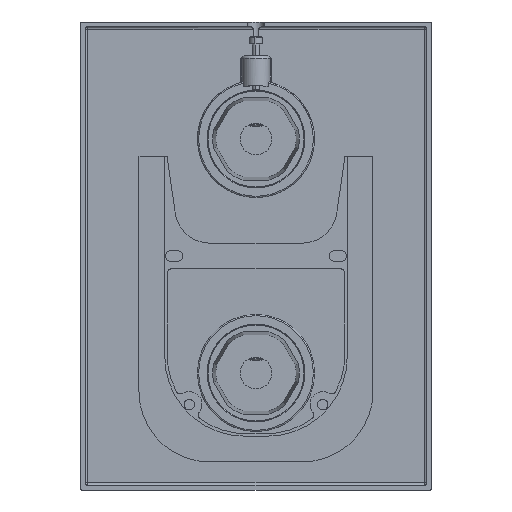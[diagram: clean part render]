
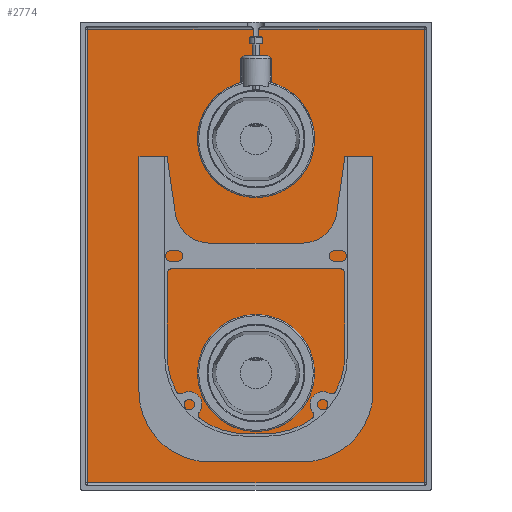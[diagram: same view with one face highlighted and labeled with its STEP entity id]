
A CAD part, front view. The second image highlights one B-rep face of the part: STEP entity #2774.
In plain terms, the highlighted planar face has unit normal (0, -1, 0) as drawn and (0, 0, -1) by its records, which use the part's own axes.
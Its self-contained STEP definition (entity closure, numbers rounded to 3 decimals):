
#81=CARTESIAN_POINT('',(0.,50.,7.5));
#82=DIRECTION('',(0.,0.,1.));
#83=DIRECTION('',(0.,-1.,0.));
#84=AXIS2_PLACEMENT_3D('',#81,#82,#83);
#86=CARTESIAN_POINT('',(0.,50.,7.5));
#87=DIRECTION('',(0.,0.,1.));
#88=DIRECTION('',(0.,1.,0.));
#89=AXIS2_PLACEMENT_3D('',#86,#87,#88);
#91=DIRECTION('',(-1.,0.,0.));
#92=VECTOR('',#91,3.92);
#93=CARTESIAN_POINT('',(-1.166,-85.478,7.5));
#94=LINE('',#93,#92);
#95=CARTESIAN_POINT('',(-5.086,-85.478,7.5));
#96=CARTESIAN_POINT('',(-5.212,-85.478,7.5));
#97=CARTESIAN_POINT('',(-5.463,-85.437,7.5));
#98=CARTESIAN_POINT('',(-5.848,-85.24,7.5));
#99=CARTESIAN_POINT('',(-6.194,-84.908,7.5));
#100=CARTESIAN_POINT('',(-6.394,-84.627,7.5));
#101=CARTESIAN_POINT('',(-6.5,-84.478,7.5));
#103=DIRECTION('',(0.,1.,0.));
#104=VECTOR('',#103,10.338);
#105=CARTESIAN_POINT('',(-6.5,-84.478,7.5));
#106=LINE('',#105,#104);
#107=DIRECTION('',(0.,-1.,0.));
#108=VECTOR('',#107,10.338);
#109=CARTESIAN_POINT('',(6.5,-74.14,7.5));
#110=LINE('',#109,#108);
#111=CARTESIAN_POINT('',(6.5,-84.478,7.5));
#112=CARTESIAN_POINT('',(6.394,-84.628,7.5));
#113=CARTESIAN_POINT('',(6.193,-84.909,7.5));
#114=CARTESIAN_POINT('',(5.847,-85.241,7.5));
#115=CARTESIAN_POINT('',(5.462,-85.438,7.5));
#116=CARTESIAN_POINT('',(5.212,-85.478,7.5));
#117=CARTESIAN_POINT('',(5.086,-85.478,7.5));
#119=DIRECTION('',(-1.,0.,0.));
#120=VECTOR('',#119,3.92);
#121=CARTESIAN_POINT('',(5.086,-85.478,7.5));
#122=LINE('',#121,#120);
#123=DIRECTION('',(0.,-1.,0.));
#124=VECTOR('',#123,11.522);
#125=CARTESIAN_POINT('',(1.166,-85.478,7.5));
#126=LINE('',#125,#124);
#127=DIRECTION('',(1.,0.,0.));
#128=VECTOR('',#127,70.834);
#129=CARTESIAN_POINT('',(1.166,-97.,7.5));
#130=LINE('',#129,#128);
#131=DIRECTION('',(0.,1.,0.));
#132=VECTOR('',#131,194.);
#133=CARTESIAN_POINT('',(72.,-97.,7.5));
#134=LINE('',#133,#132);
#135=DIRECTION('',(-1.,0.,0.));
#136=VECTOR('',#135,144.);
#137=CARTESIAN_POINT('',(72.,97.,7.5));
#138=LINE('',#137,#136);
#139=DIRECTION('',(0.,-1.,0.));
#140=VECTOR('',#139,194.);
#141=CARTESIAN_POINT('',(-72.,97.,7.5));
#142=LINE('',#141,#140);
#143=DIRECTION('',(1.,0.,0.));
#144=VECTOR('',#143,70.834);
#145=CARTESIAN_POINT('',(-72.,-97.,7.5));
#146=LINE('',#145,#144);
#147=DIRECTION('',(0.,-1.,0.));
#148=VECTOR('',#147,11.522);
#149=CARTESIAN_POINT('',(-1.166,-85.478,7.5));
#150=LINE('',#149,#148);
#937=CARTESIAN_POINT('',(6.5,-74.14,7.5));
#945=CARTESIAN_POINT('',(0.,-50.,7.5));
#946=DIRECTION('',(0.,0.,1.));
#947=DIRECTION('',(0.26,-0.966,0.));
#948=AXIS2_PLACEMENT_3D('',#945,#946,#947);
#956=CARTESIAN_POINT('',(-6.5,-74.14,7.5));
#2191=CARTESIAN_POINT('',(0.,25.,7.5));
#2192=CARTESIAN_POINT('',(0.,75.,7.5));
#2193=VERTEX_POINT('',#2191);
#2194=VERTEX_POINT('',#2192);
#2301=CARTESIAN_POINT('',(1.166,-85.478,7.5));
#2302=VERTEX_POINT('',#2301);
#2303=CARTESIAN_POINT('',(-1.166,-85.478,7.5));
#2304=VERTEX_POINT('',#2303);
#2328=CARTESIAN_POINT('',(1.166,-97.,7.5));
#2329=CARTESIAN_POINT('',(72.,-97.,7.5));
#2330=VERTEX_POINT('',#2328);
#2331=VERTEX_POINT('',#2329);
#2332=CARTESIAN_POINT('',(72.,97.,7.5));
#2333=VERTEX_POINT('',#2332);
#2338=CARTESIAN_POINT('',(-72.,97.,7.5));
#2339=VERTEX_POINT('',#2338);
#2348=CARTESIAN_POINT('',(-72.,-97.,7.5));
#2349=VERTEX_POINT('',#2348);
#2350=CARTESIAN_POINT('',(-1.166,-97.,7.5));
#2351=VERTEX_POINT('',#2350);
#2412=CARTESIAN_POINT('',(5.086,-85.478,7.5));
#2413=VERTEX_POINT('',#2412);
#2414=CARTESIAN_POINT('',(-5.086,-85.478,7.5));
#2415=VERTEX_POINT('',#2414);
#2416=VERTEX_POINT('',#956);
#2417=CARTESIAN_POINT('',(-6.5,-84.478,7.5));
#2418=VERTEX_POINT('',#2417);
#2419=VERTEX_POINT('',#937);
#2420=CARTESIAN_POINT('',(6.5,-84.478,7.5));
#2421=VERTEX_POINT('',#2420);
#2734=CARTESIAN_POINT('',(0.,0.,7.5));
#2735=DIRECTION('',(0.,0.,-1.));
#2736=DIRECTION('',(-1.,0.,0.));
#2737=AXIS2_PLACEMENT_3D('',#2734,#2735,#2736);
#2738=PLANE('',#2737);
#2740=ORIENTED_EDGE('',*,*,#2739,.T.);
#2742=ORIENTED_EDGE('',*,*,#2741,.T.);
#2744=ORIENTED_EDGE('',*,*,#2743,.T.);
#2746=ORIENTED_EDGE('',*,*,#2745,.F.);
#2748=ORIENTED_EDGE('',*,*,#2747,.T.);
#2750=ORIENTED_EDGE('',*,*,#2749,.T.);
#2752=ORIENTED_EDGE('',*,*,#2751,.T.);
#2754=ORIENTED_EDGE('',*,*,#2753,.T.);
#2756=ORIENTED_EDGE('',*,*,#2755,.T.);
#2757=ORIENTED_EDGE('',*,*,#2724,.T.);
#2759=ORIENTED_EDGE('',*,*,#2758,.T.);
#2761=ORIENTED_EDGE('',*,*,#2760,.T.);
#2763=ORIENTED_EDGE('',*,*,#2762,.T.);
#2765=ORIENTED_EDGE('',*,*,#2764,.F.);
#2766=EDGE_LOOP('',(#2740,#2742,#2744,#2746,#2748,#2750,#2752,#2754,#2756,#2757,
#2759,#2761,#2763,#2765));
#2767=FACE_OUTER_BOUND('',#2766,.F.);
#2769=ORIENTED_EDGE('',*,*,#2768,.F.);
#2771=ORIENTED_EDGE('',*,*,#2770,.F.);
#2772=EDGE_LOOP('',(#2769,#2771));
#2773=FACE_BOUND('',#2772,.F.);
#2774=ADVANCED_FACE('',(#2767,#2773),#2738,.T.);
#85=CIRCLE('',#84,25.);
#90=CIRCLE('',#89,25.);
#102=B_SPLINE_CURVE_WITH_KNOTS('',3,(#95,#96,#97,#98,#99,#100,#101),
.UNSPECIFIED.,.F.,.F.,(4,1,1,1,4),(0.,0.25,0.5,0.75,1.),
.UNSPECIFIED.);
#118=B_SPLINE_CURVE_WITH_KNOTS('',3,(#111,#112,#113,#114,#115,#116,#117),
.UNSPECIFIED.,.F.,.F.,(4,1,1,1,4),(0.,0.25,0.5,0.75,1.),
.UNSPECIFIED.);
#949=CIRCLE('',#948,25.);
#2724=EDGE_CURVE('',#2331,#2333,#134,.T.);
#2739=EDGE_CURVE('',#2304,#2415,#94,.T.);
#2741=EDGE_CURVE('',#2415,#2418,#102,.T.);
#2743=EDGE_CURVE('',#2418,#2416,#106,.T.);
#2745=EDGE_CURVE('',#2419,#2416,#949,.T.);
#2747=EDGE_CURVE('',#2419,#2421,#110,.T.);
#2749=EDGE_CURVE('',#2421,#2413,#118,.T.);
#2751=EDGE_CURVE('',#2413,#2302,#122,.T.);
#2753=EDGE_CURVE('',#2302,#2330,#126,.T.);
#2755=EDGE_CURVE('',#2330,#2331,#130,.T.);
#2758=EDGE_CURVE('',#2333,#2339,#138,.T.);
#2760=EDGE_CURVE('',#2339,#2349,#142,.T.);
#2762=EDGE_CURVE('',#2349,#2351,#146,.T.);
#2764=EDGE_CURVE('',#2304,#2351,#150,.T.);
#2768=EDGE_CURVE('',#2193,#2194,#85,.T.);
#2770=EDGE_CURVE('',#2194,#2193,#90,.T.);
